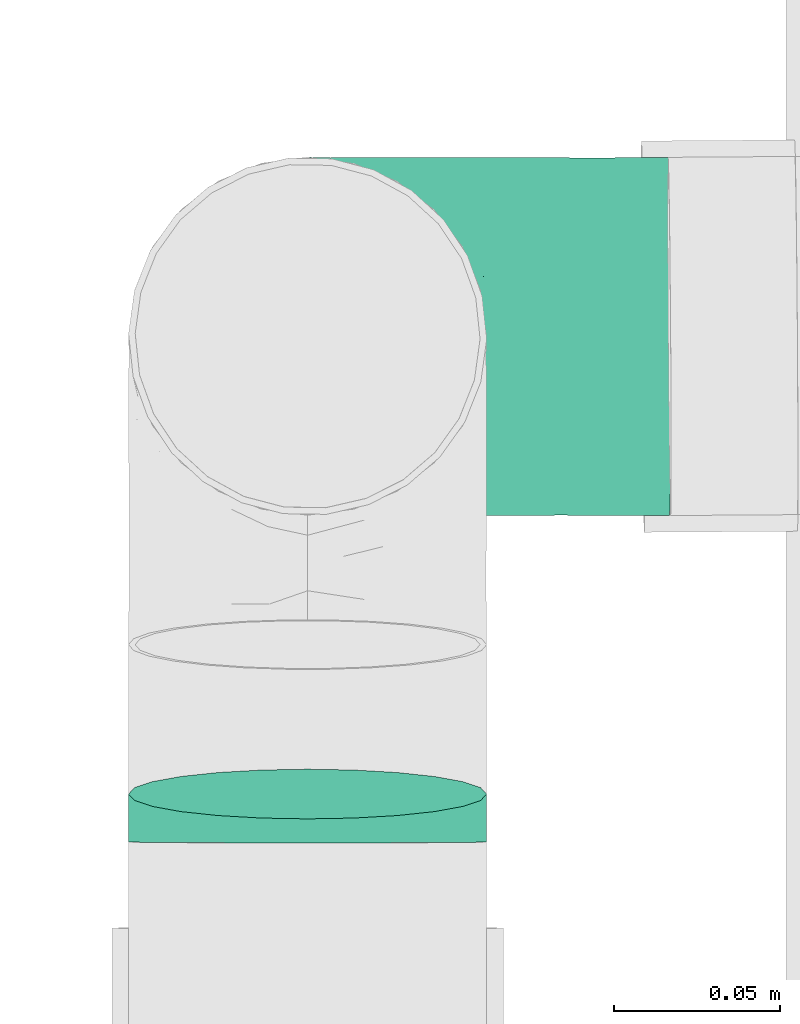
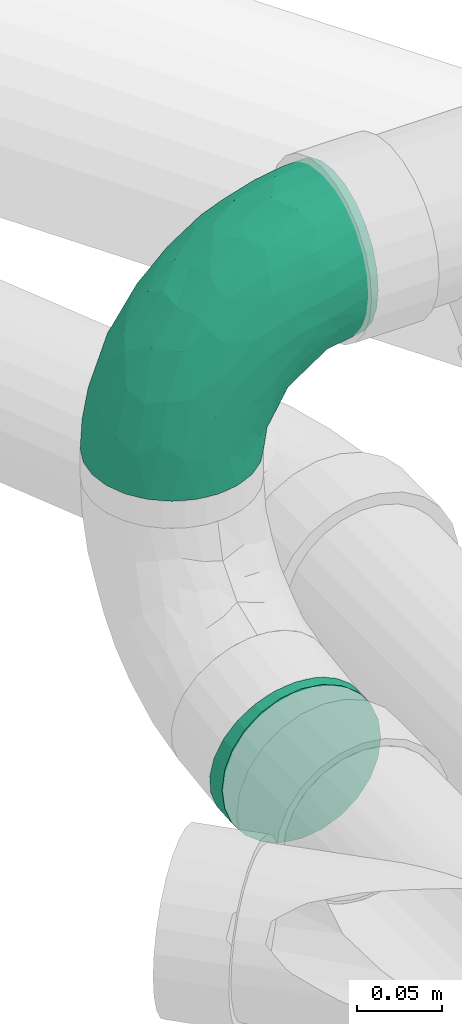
# One storey, part 70 of 78: 2 flow fittings.
"""IFC2X3 building model written with IfcOpenShell, lengths in millimetres."""

import ifcopenshell
import ifcopenshell.guid

model = None  # the IFC model being written
_history = None  # IfcOwnerHistory: only IFC2X3 demands one
_inside = {}  # id of a spatial element -> (the spatial element, [elements in it])
_under = {}  # id of a project, library or spatial element -> (it, [spatial elements below it])
_declared = {}  # id of a project -> (the project, [libraries it declares])
_typed = {}  # id of a type object -> (the type object, [elements of that type])
_made_of = {}  # id of a material, layer set ... -> (it, [elements and type objects made of it])


def new_model(schema):
    """Start an empty IFC model of exactly this schema.

    Asked for "IFC4X3", IfcOpenShell would pick the latest addendum, in which some entities
    have other attributes; the version numbers below select the first issue.
    IFC2X3 requires an IfcOwnerHistory on every rooted entity: one is made here for all.
    """
    global model, _history
    if schema == "IFC4X3":
        model = ifcopenshell.file(schema_version=(4, 3, 0, 0))
    else:
        model = ifcopenshell.file(schema=schema)
    _inside.clear()
    _under.clear()
    _declared.clear()
    _typed.clear()
    _made_of.clear()
    _history = None
    if model.schema == "IFC2X3":
        org = make("IfcOrganization", Name="unknown")
        user = make(
            "IfcPersonAndOrganization",
            ThePerson=make("IfcPerson", FamilyName="unknown"),
            TheOrganization=org,
        )
        app = make(
            "IfcApplication",
            ApplicationDeveloper=org,
            Version="unknown",
            ApplicationFullName="unknown",
            ApplicationIdentifier="unknown",
        )
        _history = make(
            "IfcOwnerHistory",
            OwningUser=user,
            OwningApplication=app,
            ChangeAction="ADDED",
            CreationDate=0,
        )
    return model


def make(cls, **values):
    """One entity of the class cls with the attributes given. An attribute that is None is left unset."""
    return model.create_entity(
        cls, **{name: value for name, value in values.items() if value is not None}
    )


def entity(cls, *values):
    """Any entity or typed value of the class cls, its attributes in the order of the schema. None: left unset."""
    e = model.create_entity(cls)
    for i, value in enumerate(values):
        if value is not None:
            e[i] = value
    return e


def rooted(cls, **values):
    """An entity with a GlobalId (a new one), such as an element, a storey or a relation."""
    return make(cls, GlobalId=ifcopenshell.guid.new(), OwnerHistory=_history, **values)


def si_unit(unit_type, name, prefix=None):
    """IfcSIUnit, for example si_unit("LENGTHUNIT", "METRE", prefix="MILLI")."""
    return make("IfcSIUnit", UnitType=unit_type, Prefix=prefix, Name=name)


def converted_unit(unit_type, name, factor, base, dimensions=None, offset=None):
    """IfcConversionBasedUnit, such as the inch: factor (a typed value) times the base unit."""
    return make(
        "IfcConversionBasedUnit"
        if offset is None
        else "IfcConversionBasedUnitWithOffset",
        ConversionOffset=offset,
        Dimensions=None
        if dimensions is None
        else entity("IfcDimensionalExponents", *dimensions),
        UnitType=unit_type,
        Name=name,
        ConversionFactor=make(
            "IfcMeasureWithUnit", ValueComponent=factor, UnitComponent=base
        ),
    )


def derived_unit(unit_type, elements):
    """IfcDerivedUnit: a product of units, each with its exponent."""
    return make(
        "IfcDerivedUnit",
        Elements=[
            make("IfcDerivedUnitElement", Unit=unit, Exponent=power)
            for unit, power in elements
        ],
        UnitType=unit_type,
    )


def assignment(units):
    """IfcUnitAssignment: the units of a project."""
    return None if units is None else make("IfcUnitAssignment", Units=units)


def point(xyz):
    """IfcCartesianPoint."""
    return None if xyz is None else make("IfcCartesianPoint", Coordinates=xyz)


def direction(xyz):
    """IfcDirection."""
    return None if xyz is None else make("IfcDirection", DirectionRatios=xyz)


def frame(location, z_axis=None, x_axis=None):
    """IfcAxis2Placement3D, a coordinate frame: its origin and axes. An axis left out is left unset."""
    return make(
        "IfcAxis2Placement3D",
        Location=point(location),
        Axis=direction(z_axis),
        RefDirection=direction(x_axis),
    )


def origin_with_axes():
    """The frame at (0, 0, 0) with the z axis (0, 0, 1) and the x axis (1, 0, 0) written out."""
    return frame((0.0, 0.0, 0.0), z_axis=(0.0, 0.0, 1.0), x_axis=(1.0, 0.0, 0.0))


def place(relative_to, where):
    """IfcLocalPlacement: puts the frame where relative to a parent placement (None: the world)."""
    return make(
        "IfcLocalPlacement", PlacementRelTo=relative_to, RelativePlacement=where
    )


def context(
    kind, dimensions, precision=None, world=None, true_north=None, identifier=None
):
    """IfcGeometricRepresentationContext, for example the 3D "Model" context."""
    return make(
        "IfcGeometricRepresentationContext",
        ContextIdentifier=identifier,
        ContextType=kind,
        CoordinateSpaceDimension=dimensions,
        Precision=precision,
        WorldCoordinateSystem=world,
        TrueNorth=true_north,
    )


def subcontext(parent, identifier, kind, view, scale=None):
    """IfcGeometricRepresentationSubContext, for example "Body" below "Model"."""
    return make(
        "IfcGeometricRepresentationSubContext",
        ContextIdentifier=identifier,
        ContextType=kind,
        ParentContext=parent,
        TargetScale=scale,
        TargetView=view,
    )


def project(units=None, contexts=None):
    """IfcProject with its units and contexts."""
    return rooted(
        "IfcProject",
        Name="project",
        RepresentationContexts=contexts,
        UnitsInContext=assignment(units),
    )


def spatial(cls, under=None, at=None, **own):
    """A site, building, storey or space (cls), placed at a placement, below another one or the project."""
    s = rooted(cls, ObjectPlacement=at, **own)
    if under is not None:
        _under.setdefault(under.id(), (under, []))[1].append(s)
    return s


def faces_of(points, faces, orient=None, outer=None):
    """IfcFace entities. A face is a list of loops; a loop is a list of indices into points, from 0.

    orient and outer hold one flag for each loop. By default every Orientation is true, the
    first loop of a face is its IfcFaceOuterBound and the others are IfcFaceBound.
    """
    made = []
    for i, loops in enumerate(faces):
        bounds = []
        for j, loop in enumerate(loops):
            is_outer = j == 0 if outer is None else outer[i][j]
            bounds.append(
                make(
                    "IfcFaceOuterBound" if is_outer else "IfcFaceBound",
                    Bound=make("IfcPolyLoop", Polygon=[points[k] for k in loop]),
                    Orientation=True if orient is None else orient[i][j],
                )
            )
        made.append(make("IfcFace", Bounds=bounds))
    return made


def open_shell(faces, orient=None, outer=None):
    """The faces of one IfcOpenShell. surface_model builds it on its shared points."""
    return ("IfcOpenShell", faces, orient, outer)


def surface_model(cls, points, shells):
    """IfcFaceBasedSurfaceModel or IfcShellBasedSurfaceModel (cls): surfaces that need not close."""
    shared = [point(p) for p in points]
    made = [make(c, CfsFaces=faces_of(shared, fs, o, b)) for c, fs, o, b in shells]
    if cls == "IfcFaceBasedSurfaceModel":
        return make(cls, FbsmFaces=made)
    return make(cls, SbsmBoundary=made)


def shape(context_of_items, identifier, shape_type, items):
    """IfcShapeRepresentation: the items that make up one representation, for example the "Body"."""
    return make(
        "IfcShapeRepresentation",
        ContextOfItems=context_of_items,
        RepresentationIdentifier=identifier,
        RepresentationType=shape_type,
        Items=items,
    )


def source(mapping_origin, context_of_items, identifier, shape_type, items):
    """IfcRepresentationMap: a shape defined once, which mapped items show again and again."""
    return make(
        "IfcRepresentationMap",
        MappingOrigin=mapping_origin,
        MappedRepresentation=shape(context_of_items, identifier, shape_type, items),
    )


def transform(
    local_origin,
    x_axis=None,
    y_axis=None,
    z_axis=None,
    scale=None,
    scale2=None,
    scale3=None,
    uniform=True,
):
    """IfcCartesianTransformationOperator3D, or its non-uniform kind. x_axis, y_axis, z_axis: its Axis1, 2, 3."""
    if uniform:
        return make(
            "IfcCartesianTransformationOperator3D",
            Axis1=direction(x_axis),
            Axis2=direction(y_axis),
            LocalOrigin=point(local_origin),
            Scale=scale,
            Axis3=direction(z_axis),
        )
    return make(
        "IfcCartesianTransformationOperator3DnonUniform",
        Axis1=direction(x_axis),
        Axis2=direction(y_axis),
        LocalOrigin=point(local_origin),
        Scale=scale,
        Axis3=direction(z_axis),
        Scale2=scale2,
        Scale3=scale3,
    )


def mapped(mapping_source, mapping_target):
    """IfcMappedItem: shows the shape of a source again, moved by a transform."""
    return make(
        "IfcMappedItem", MappingSource=mapping_source, MappingTarget=mapping_target
    )


def made_of(thing, what):
    """Note that an element or type object is made of a material, layer set ...; save() writes the relation."""
    if what is not None:
        _made_of.setdefault(what.id(), (what, []))[1].append(thing)
    return thing


def type_object(cls, material=None, **own):
    """A type object (cls), such as IfcWallType, which elements share."""
    return made_of(rooted(cls, **own), material)


def element(
    cls,
    number,
    at=None,
    inside=None,
    cuts=None,
    type_object=None,
    material=None,
    context=None,
    identifier="Body",
    shape_type=None,
    held_by="IfcProductDefinitionShape",
    body=None,
    shapes=None,
    **own,
):
    """One element of the class cls, such as IfcWall. Its Tag is "e" and its number.

    at: its placement. inside: the storey or other place that contains it. cuts: it is an
    opening in that element (IfcRelVoidsElement). A single representation is given by context,
    identifier, shape_type and body (its items); several are given by shapes. held_by: the class
    of the entity that holds the representations. save() writes the other relations.
    """
    e = rooted(cls, Tag="e%d" % number, ObjectPlacement=at, **own)
    if body is not None:
        shapes = [shape(context, identifier, shape_type, body)]
    if shapes is not None:
        e.Representation = make(held_by, Representations=shapes)
    if inside is not None:
        _inside.setdefault(inside.id(), (inside, []))[1].append(e)
    if cuts is not None:
        rooted(
            "IfcRelVoidsElement", RelatingBuildingElement=cuts, RelatedOpeningElement=e
        )
    if type_object is not None:
        _typed.setdefault(type_object.id(), (type_object, []))[1].append(e)
    return made_of(e, material)


def aggregate(whole, parts):
    """IfcRelAggregates: a whole, such as a stair, and the parts it consists of."""
    return rooted("IfcRelAggregates", RelatingObject=whole, RelatedObjects=parts)


def save(model, path):
    """Write the relations noted so far, then the file.

    IfcRelAggregates (storeys below a building ...), IfcRelContainedInSpatialStructure (elements
    in a storey), IfcRelDefinesByType, IfcRelAssociatesMaterial and IfcRelDeclares: one each for
    every whole, place, type object, material and project.
    """
    for whole, parts in _under.values():
        aggregate(whole, parts)
    for where, things in _inside.values():
        rooted(
            "IfcRelContainedInSpatialStructure",
            RelatedElements=things,
            RelatingStructure=where,
        )
    for kind, things in _typed.values():
        rooted("IfcRelDefinesByType", RelatedObjects=things, RelatingType=kind)
    for what, things in _made_of.values():
        rooted("IfcRelAssociatesMaterial", RelatedObjects=things, RelatingMaterial=what)
    for by, libraries in _declared.values():
        rooted("IfcRelDeclares", RelatingContext=by, RelatedDefinitions=libraries)
    model.write(path)


model = new_model("IFC2X3")

# Units and contexts
model_context = context("Model", 3, precision=0.01, world=frame((0.0, 4.29681676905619e-09, 0.0)), true_north=direction((4.01073788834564e-13, 1.0)))
plan_context = context("Plan", 3, precision=0.01, world=frame((0.0, 4.29681676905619e-09, 0.0)), true_north=direction((4.01073788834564e-13, 1.0)))
body_context = subcontext(model_context, "Body", "Model", "MODEL_VIEW")
ifc_project = project(units=[converted_unit("PLANEANGLEUNIT", "DEGREE", entity("IfcPositiveLengthMeasure", 0.0174532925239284), si_unit("PLANEANGLEUNIT", "RADIAN"), dimensions=[0, 0, 0, 0, 0, 0, 0]), si_unit("AREAUNIT", "SQUARE_METRE"), si_unit("LENGTHUNIT", "METRE", prefix="MILLI"), si_unit("MASSUNIT", "GRAM", prefix="KILO"), si_unit("POWERUNIT", "WATT"), si_unit("PRESSUREUNIT", "PASCAL"), si_unit("FORCEUNIT", "NEWTON", prefix="KILO"), si_unit("ELECTRICVOLTAGEUNIT", "VOLT"), si_unit("ELECTRICCURRENTUNIT", "AMPERE"), si_unit("THERMODYNAMICTEMPERATUREUNIT", "DEGREE_CELSIUS"), si_unit("TIMEUNIT", "SECOND"), si_unit("VOLUMEUNIT", "CUBIC_METRE"), derived_unit("LINEARVELOCITYUNIT", [(si_unit("LENGTHUNIT", "METRE"), 1), (si_unit("TIMEUNIT", "SECOND"), -1)]), derived_unit("VOLUMETRICFLOWRATEUNIT", [(si_unit("VOLUMEUNIT", "CUBIC_METRE"), 1), (si_unit("TIMEUNIT", "SECOND"), -1)]), derived_unit("THERMALTRANSMITTANCEUNIT", [(si_unit("POWERUNIT", "WATT"), 1), (si_unit("THERMODYNAMICTEMPERATUREUNIT", "KELVIN"), -1), (si_unit("AREAUNIT", "SQUARE_METRE"), -1)]), derived_unit("SOUNDPRESSUREUNIT", [(si_unit("PRESSUREUNIT", "PASCAL"), 1)])], contexts=[model_context, plan_context])

# Site, building, storey
site_placement = place(None, frame((0.0, -4.29681676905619e-09, 0.0), z_axis=(0.0, 0.0, 1.0), x_axis=(1.0, 0.0, 0.0)))
site = spatial("IfcSite", under=ifc_project, at=site_placement, Name="ENGM", CompositionType="ELEMENT")
building_placement = place(site_placement, frame((0.0, 4.29681676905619e-09, 0.0), z_axis=(0.0, 0.0, 1.0), x_axis=(1.0, 0.0, 0.0)))
building = spatial("IfcBuilding", under=site, at=building_placement, Name="TH", CompositionType="ELEMENT")
storey_placement = place(building_placement, frame((0.0, 0.0, 205200.0), z_axis=(0.0, 0.0, 1.0), x_axis=(1.0, 0.0, 0.0)))
storey = spatial("IfcBuildingStorey", under=building, at=storey_placement, Name="Nivå D + 1,2 m", CompositionType="ELEMENT", Elevation=205200.0)

# Flow fittings
pipe_fitting_type = type_object("IfcPipeFittingType", Name="magi_pipe_fe_elbow_short_001", PredefinedType="BEND")
shared_shape_1 = source(origin_with_axes(), body_context, "Body", "SurfaceModel", [
    surface_model("IfcShellBasedSurfaceModel", [(-109.08591, 0.0, -54.0), (-109.08591, -13.97623, -52.15999), (-109.08591, 13.97623, -52.15999), (-109.08591, 27.0, -46.76537), (-109.08591, 52.15999, -13.97623), (-109.08591, 46.76537, -27.0), (-109.08591, 38.18377, -38.18377), (-109.08591, -54.0, 0.0), (-109.08591, -27.0, -46.76537), (-109.08591, -38.18377, -38.18377), (-109.08591, -46.76537, -27.0), (-109.08591, -52.15999, -13.97623), (-109.08591, 38.18377, 38.18377), (-109.08591, 46.76537, 27.0), (-109.08591, 52.15999, 13.97623), (-109.08591, 13.97623, 52.15999), (-109.08591, 27.0, 46.76537), (-109.08591, -46.76537, 27.0), (-109.08591, -38.18377, 38.18377), (-109.08591, -27.0, 46.76537), (-109.08591, -52.15999, 13.97623), (-109.08591, -13.97623, 52.15999), (-109.08591, 0.0, 54.0), (-109.08591, 54.0, 0.0), (-15.06684, 108.94063, -52.15999), (12.88422, 109.22027, -52.15999), (-1.09131, 109.08045, -54.0), (-39.27317, 108.69845, -38.18377), (-28.08996, 108.81034, -46.76537), (-47.85435, 108.6126, -27.0), (-53.2487, 108.55864, -13.97623), (45.67172, 109.5483, 27.0), (52.90598, 109.62068, 0.0), (37.09054, 109.46245, -38.18377), (25.90733, 109.35057, -46.76537), (51.06607, 109.60227, -13.97623), (45.67172, 109.5483, -27.0), (-53.2487, 108.55864, 13.97623), (-39.27317, 108.69845, 38.18377), (-47.85435, 108.6126, 27.0), (-28.08996, 108.81034, 46.76537), (-15.06684, 108.94063, 52.15999), (25.90733, 109.35057, 46.76537), (37.09054, 109.46245, 38.18377), (51.06607, 109.60227, 13.97623), (12.88422, 109.22027, 52.15999), (-1.09131, 109.08045, 54.0), (-55.08861, 108.54022, 0.0), (-80.46532, -41.98217, 30.31393), (-75.04344, -47.55258, 17.06073), (-66.89637, -48.40985, 0.0), (-82.3972, -50.46373, 0.0), (22.83858, 18.42029, 16.3558), (33.69434, 48.51541, 27.15448), (11.37909, 16.02022, 31.90688), (24.04164, 44.68941, 36.91151), (30.40161, 72.02078, 40.20173), (12.53728, 42.73486, 44.88114), (-54.51713, -0.40125, 52.32087), (-80.37777, -20.42678, 48.57173), (-42.60729, -12.96417, 44.88114), (-71.71303, -31.1206, 40.20173), (6.03696, -5.97686, 0.0), (5.46312, -3.32535, 15.48022), (-10.79077, -19.00104, 0.0), (-56.15572, 93.78505, 9.29363), (-63.65354, 76.43241, 11.87914), (-51.83159, 94.09655, 22.51631), (-94.33026, 32.70749, 44.02114), (-85.40569, 45.02851, 35.4629), (-75.20546, 61.52078, 19.16936), (-66.78552, 63.76389, 26.95011), (-19.31944, 53.59519, 53.91471), (-40.66297, 40.25818, 52.71376), (-32.66135, 23.85057, 53.70105), (-83.3953, -7.1505, 53.06947), (-21.09474, 93.87517, 50.59108), (-8.21268, 81.69502, 53.8694), (-76.56596, 8.2816, 53.9102), (-79.41283, 53.7253, 28.04966), (-91.39931, 53.24579, 19.22961), (-4.59467, 3.75972, 36.7177), (-10.15263, 10.05156, 44.06164), (-19.30832, -12.75026, 33.35361), (-94.84303, 55.11944, 9.05772), (-77.63065, 63.17529, 9.02947), (-15.81035, -21.21601, 16.66337), (-15.58938, -16.49715, 25.32041), (-48.1759, -34.17801, 27.15448), (-70.71162, 70.00771, 0.0), (-88.29629, 58.16235, 0.0), (-84.28646, 21.16783, 51.0182), (-14.66637, 36.88655, 53.02716), (-27.57242, 9.95681, 50.35522), (-6.25629, 29.61877, 49.62323), (38.25975, 44.67517, 13.13968), (47.73819, 67.37732, 0.0), (46.79945, 75.51541, 17.06073), (41.17508, 80.88128, 30.31393), (-27.6185, -32.02522, 0.0), (-40.44225, -36.86275, 13.42975), (-47.25744, -40.21754, 0.0), (6.31584, 83.46267, 53.06947), (-58.06399, 36.89093, 49.96565), (-60.16878, 23.25843, 53.03692), (-53.69334, 13.28175, 53.9724), (49.63688, 82.89792, 0.0), (-44.85805, 69.74422, 42.5553), (-45.27401, 87.45139, 35.18781), (-57.57931, 60.70719, 38.29247), (-24.13936, 73.75959, 51.4455), (-59.04277, 87.71001, 0.0), (-34.96979, 84.29468, 44.77558), (-41.68596, 58.74145, 48.11281), (19.62164, 80.57809, 48.57173), (-44.44666, -24.48752, 36.91151), (-58.51207, 48.66667, 44.87484), (-75.13789, 36.73742, 45.51108), (-32.20778, 56.47937, 51.74119), (-0.14417, 54.51842, 52.32087), (31.74731, 27.93751, 0.0), (-1.33237, -2.72858, 27.44687), (-56.67991, 76.66386, 26.69553), (18.89214, 10.98032, 0.0), (39.74275, 47.65742, 0.0), (-79.2617, 35.44935, -45.1918), (-44.69452, -13.29576, -45.34185), (-47.64908, -0.50693, -51.35521), (-21.9507, -0.55406, -44.07477), (-86.40799, 6.8288, -53.82706), (-52.73016, -40.54217, -18.10804), (-79.82224, -48.34222, -17.58247), (-68.82648, -40.03665, -29.21682), (-84.11195, 21.19559, -51.02562), (-93.66447, 55.34919, -9.61457), (-34.74182, 85.48466, -44.68356), (-22.84152, 79.31004, -51.21805), (-76.68385, 62.64659, -13.59328), (17.94137, 69.54395, -48.00922), (20.37264, 92.43433, -49.13903), (31.47661, 79.48464, -40.75556), (-86.40715, 44.76302, -35.35225), (-65.94229, 49.69056, -40.72164), (9.62963, -0.42021, -11.44075), (-91.93911, -42.99017, -31.36016), (-50.8167, 63.03161, -41.62778), (-50.63615, 50.13208, -47.46514), (-28.3383, -27.832, -20.34552), (-4.11868, -8.25214, -23.47783), (-8.34161, -17.43499, -10.92631), (-79.16576, -32.27021, -40.75556), (-16.48874, -9.98872, -33.95938), (4.23285, 9.75872, -33.97209), (1.85833, 26.14949, -44.98649), (21.55235, 41.3962, -37.72505), (6.01484, 80.66613, -53.00823), (47.54124, 80.30186, -17.58247), (-92.22589, -21.29635, -49.13903), (-41.17851, -21.96541, -37.72505), (-30.76611, -23.51598, -29.74372), (-50.88757, -31.87187, -32.00087), (-59.88588, -24.48922, -42.48696), (-69.36098, -18.6362, -48.00922), (-80.60193, -6.82153, -53.00823), (-39.11756, 66.49085, -46.96834), (28.70822, 37.43617, -26.92065), (39.34609, 69.22357, -29.21682), (37.44602, 44.63381, -15.76956), (-58.91784, 81.99433, -16.26505), (-66.62087, 64.25174, -26.53417), (0.03022, 47.65176, -51.35521), (10.62375, 47.06885, -47.14906), (-19.61079, 19.41557, -50.94388), (-47.58733, 79.40267, -36.07996), (-51.63913, 88.25427, -26.13466), (-7.6929, 86.33535, -53.82706), (42.06825, 92.36458, -31.36016), (-13.43799, 60.15174, -53.98976), (-29.80801, 31.92214, -53.96739), (-32.5387, 51.82964, -52.3982), (17.97425, 13.99901, -20.26786), (-53.65083, 31.51998, -52.27431), (-88.15419, 52.49808, -23.36754), (-34.5201, -34.58813, -10.80402), (26.08103, 20.52351, -10.32439), (-60.28317, 12.83555, -53.98976), (-60.98613, 61.44839, -35.06962)], [open_shell([[[0, 1, 2]], [[2, 1, 3]], [[4, 5, 6]], [[6, 3, 7]], [[6, 7, 4]], [[8, 9, 1]], [[9, 3, 1]], [[10, 11, 9]], [[7, 9, 11]], [[9, 7, 3]], [[7, 12, 4]], [[4, 13, 14]], [[4, 12, 13]], [[15, 16, 12]], [[12, 7, 15]], [[17, 15, 7]], [[18, 19, 17]], [[17, 7, 20]], [[19, 21, 17]], [[21, 15, 17]], [[15, 21, 22]], [[23, 4, 14]], [[24, 25, 26]], [[27, 24, 28]], [[27, 29, 30]], [[24, 27, 25]], [[27, 31, 32]], [[25, 33, 34]], [[33, 25, 32]], [[33, 35, 36]], [[35, 33, 32]], [[25, 27, 32]], [[27, 30, 31]], [[37, 38, 30]], [[38, 37, 39]], [[38, 40, 41]], [[38, 31, 30]], [[41, 31, 38]], [[31, 42, 43]], [[44, 32, 31]], [[41, 45, 42]], [[42, 31, 41]], [[45, 41, 46]], [[37, 30, 47]], [[48, 17, 49]], [[50, 49, 51]], [[52, 53, 54]], [[49, 17, 20]], [[20, 51, 49]], [[55, 56, 57]], [[18, 17, 48]], [[58, 59, 60]], [[56, 43, 42]], [[61, 19, 18]], [[61, 59, 19]], [[62, 63, 64]], [[65, 66, 67]], [[12, 68, 69]], [[66, 70, 71]], [[13, 12, 69]], [[72, 73, 74]], [[16, 68, 12]], [[21, 75, 22]], [[41, 76, 77]], [[22, 78, 15]], [[79, 80, 13]], [[81, 82, 83]], [[23, 14, 84]], [[70, 85, 84]], [[86, 87, 88]], [[89, 90, 85]], [[91, 15, 78]], [[15, 91, 16]], [[92, 93, 94]], [[82, 60, 83]], [[70, 84, 80]], [[95, 96, 97]], [[31, 43, 98]], [[53, 97, 98]], [[99, 100, 101]], [[48, 88, 61]], [[45, 46, 102]], [[103, 91, 104]], [[97, 44, 31]], [[37, 67, 39]], [[98, 97, 31]], [[104, 105, 74]], [[97, 106, 44]], [[49, 50, 101]], [[107, 108, 109]], [[110, 72, 77]], [[85, 66, 89]], [[22, 75, 78]], [[111, 65, 47]], [[40, 38, 112]], [[89, 66, 111]], [[79, 71, 70]], [[112, 110, 76]], [[113, 110, 112]], [[39, 67, 108]], [[114, 42, 45]], [[19, 59, 21]], [[56, 114, 57]], [[40, 76, 41]], [[46, 41, 77]], [[115, 60, 61]], [[65, 111, 66]], [[56, 42, 114]], [[53, 52, 95]], [[107, 116, 113]], [[116, 69, 117]], [[80, 79, 70]], [[108, 38, 39]], [[110, 113, 118]], [[110, 118, 72]], [[102, 77, 119]], [[60, 59, 61]], [[75, 59, 58]], [[115, 61, 88]], [[93, 60, 82]], [[102, 114, 45]], [[57, 114, 119]], [[94, 57, 119]], [[82, 81, 57]], [[104, 91, 78]], [[68, 91, 117]], [[88, 48, 49]], [[61, 18, 48]], [[43, 56, 98]], [[53, 98, 56]], [[86, 88, 100]], [[95, 52, 120]], [[81, 121, 54]], [[55, 53, 56]], [[86, 100, 99]], [[63, 52, 121]], [[112, 107, 113]], [[103, 116, 117]], [[104, 74, 73]], [[119, 77, 72]], [[93, 74, 58]], [[72, 74, 92]], [[84, 85, 90]], [[66, 85, 70]], [[23, 84, 90]], [[84, 14, 80]], [[14, 13, 80]], [[79, 13, 69]], [[69, 109, 79]], [[71, 109, 122]], [[109, 108, 122]], [[112, 38, 108]], [[77, 102, 46]], [[114, 102, 119]], [[59, 75, 21]], [[78, 75, 58]], [[52, 54, 121]], [[63, 123, 52]], [[104, 78, 105]], [[103, 104, 73]], [[113, 103, 73]], [[91, 103, 117]], [[113, 116, 103]], [[69, 116, 109]], [[78, 58, 105]], [[58, 74, 105]], [[109, 71, 79]], [[66, 71, 122]], [[95, 124, 96]], [[53, 95, 97]], [[60, 93, 58]], [[94, 93, 82]], [[57, 94, 82]], [[92, 94, 119]], [[72, 92, 119]], [[93, 92, 74]], [[20, 7, 51]], [[106, 97, 96]], [[106, 32, 44]], [[101, 100, 49]], [[49, 100, 88]], [[67, 66, 122]], [[47, 65, 37]], [[91, 68, 16]], [[69, 68, 117]], [[112, 76, 40]], [[77, 76, 110]], [[65, 67, 37]], [[108, 67, 122]], [[88, 83, 115]], [[83, 60, 115]], [[57, 54, 55]], [[54, 53, 55]], [[121, 81, 83]], [[57, 81, 54]], [[83, 87, 121]], [[87, 63, 121]], [[88, 87, 83]], [[63, 87, 86]], [[63, 86, 64]], [[95, 120, 124]], [[86, 99, 64]], [[113, 73, 118]], [[72, 118, 73]], [[108, 107, 112]], [[116, 107, 109]], [[123, 63, 62]], [[123, 120, 52]], [[6, 125, 3]], [[126, 127, 128]], [[0, 2, 129]], [[130, 131, 132]], [[3, 133, 2]], [[133, 3, 125]], [[90, 134, 23]], [[135, 28, 136]], [[90, 137, 134]], [[138, 139, 140]], [[141, 142, 125]], [[123, 62, 143]], [[24, 136, 28]], [[125, 6, 141]], [[131, 10, 144]], [[142, 145, 146]], [[131, 51, 11]], [[147, 148, 149]], [[150, 9, 8]], [[148, 151, 152]], [[152, 153, 154]], [[25, 155, 26]], [[156, 36, 35]], [[9, 144, 10]], [[8, 157, 150]], [[158, 159, 160]], [[150, 161, 160]], [[157, 8, 1]], [[162, 163, 127]], [[145, 164, 146]], [[89, 137, 90]], [[165, 166, 167]], [[168, 169, 137]], [[153, 170, 171]], [[30, 168, 47]], [[153, 172, 170]], [[163, 1, 0]], [[173, 174, 29]], [[169, 168, 174]], [[34, 33, 140]], [[26, 175, 24]], [[24, 175, 136]], [[176, 33, 36]], [[27, 28, 135]], [[29, 27, 173]], [[155, 25, 139]], [[157, 163, 162]], [[177, 178, 179]], [[168, 89, 111]], [[166, 156, 167]], [[51, 131, 50]], [[139, 25, 34]], [[140, 154, 138]], [[152, 165, 180]], [[156, 106, 96]], [[179, 136, 177]], [[181, 133, 125]], [[156, 166, 176]], [[10, 131, 11]], [[177, 155, 170]], [[141, 182, 169]], [[168, 111, 47]], [[145, 135, 164]], [[182, 4, 134]], [[183, 149, 99]], [[6, 5, 141]], [[168, 137, 89]], [[174, 30, 29]], [[176, 140, 33]], [[154, 140, 166]], [[170, 155, 138]], [[175, 155, 177]], [[171, 154, 153]], [[170, 172, 178]], [[156, 35, 106]], [[120, 184, 167]], [[184, 143, 180]], [[165, 167, 180]], [[162, 126, 161]], [[144, 150, 132]], [[129, 163, 0]], [[185, 178, 127]], [[185, 127, 163]], [[127, 172, 128]], [[160, 130, 132]], [[35, 32, 106]], [[182, 5, 4]], [[125, 142, 146]], [[181, 125, 146]], [[129, 133, 185]], [[136, 179, 164]], [[173, 27, 135]], [[154, 165, 152]], [[128, 172, 153]], [[148, 152, 180]], [[152, 151, 128]], [[152, 128, 153]], [[128, 158, 126]], [[169, 182, 137]], [[141, 5, 182]], [[133, 129, 2]], [[163, 129, 185]], [[155, 175, 26]], [[136, 175, 177]], [[177, 170, 178]], [[181, 146, 179]], [[127, 178, 172]], [[181, 178, 185]], [[178, 181, 179]], [[133, 181, 185]], [[169, 186, 141]], [[186, 173, 145]], [[149, 143, 62]], [[151, 159, 158]], [[143, 148, 180]], [[149, 62, 64]], [[147, 183, 130]], [[101, 130, 183]], [[159, 148, 147]], [[128, 151, 158]], [[186, 145, 142]], [[135, 145, 173]], [[136, 164, 135]], [[179, 146, 164]], [[141, 186, 142]], [[173, 186, 169]], [[148, 143, 149]], [[123, 143, 184]], [[123, 184, 120]], [[180, 167, 184]], [[167, 96, 124]], [[149, 183, 147]], [[101, 50, 130]], [[183, 99, 101]], [[50, 131, 130]], [[51, 7, 11]], [[148, 159, 151]], [[147, 130, 160]], [[160, 159, 147]], [[150, 160, 132]], [[182, 134, 137]], [[23, 134, 4]], [[140, 139, 34]], [[155, 139, 138]], [[156, 176, 36]], [[140, 176, 166]], [[163, 157, 1]], [[150, 157, 162]], [[150, 144, 9]], [[131, 144, 132]], [[169, 174, 173]], [[30, 174, 168]], [[96, 167, 156]], [[124, 120, 167]], [[166, 165, 154]], [[170, 138, 171]], [[154, 171, 138]], [[161, 126, 158]], [[127, 126, 162]], [[160, 161, 158]], [[162, 161, 150]], [[99, 149, 64]]])]),
])
flow_fitting_1_placement = place(storey_placement, frame((903466.63057, 479929.02118, 4443.0876), z_axis=(-5.99999905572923e-06, -0.999999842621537, -0.000560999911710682), x_axis=(-0.999950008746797, 3.90260880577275e-07, 0.00999900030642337)))
element("IfcFlowFitting", 1, at=flow_fitting_1_placement, inside=storey, type_object=pipe_fitting_type, Name="magi_pipe_fe_elbow_short_001", context=body_context, shape_type="MappedRepresentation", body=[
    mapped(shared_shape_1, transform((0.0, 0.0, 0.0), scale=1.0)),
])
shared_shape_2 = source(origin_with_axes(), body_context, "Body", "SurfaceModel", [
    surface_model("IfcShellBasedSurfaceModel", [(-7.25921, 0.0, -54.0), (-7.25921, -13.97623, -52.15999), (-7.25921, 13.97623, -52.15999), (-7.25921, 27.0, -46.76537), (-7.25921, 52.15999, -13.97623), (-7.25921, 46.76537, -27.0), (-7.25921, 38.18377, -38.18377), (-7.25921, -54.0, 0.0), (-7.25921, -27.0, -46.76537), (-7.25921, -38.18377, -38.18377), (-7.25921, -46.76537, -27.0), (-7.25921, -52.15999, -13.97623), (-7.25921, 38.18377, 38.18377), (-7.25921, 46.76537, 27.0), (-7.25921, 52.15999, 13.97623), (-7.25921, 13.97623, 52.15999), (-7.25921, 27.0, 46.76537), (-7.25921, -46.76537, 27.0), (-7.25921, -38.18377, 38.18377), (-7.25921, -27.0, 46.76537), (-7.25921, -52.15999, 13.97623), (-7.25921, -13.97623, 52.15999), (-7.25921, 0.0, 54.0), (-7.25921, 54.0, 0.0), (5.32354, 14.82198, -52.15999), (9.06429, -12.87904, -52.15999), (7.19392, 0.97147, -54.0), (2.08396, 38.81177, -38.18377), (3.58063, 27.7286, -46.76537), (13.45231, -45.37325, 27.0), (14.42048, -52.5428, 0.0), (0.93553, 47.31618, -27.0), (2.08396, 38.81177, 38.18377), (12.30387, -36.86883, -38.18377), (10.8072, -25.78567, -46.76537), (13.45231, -45.37325, -27.0), (14.17424, -50.71935, -13.97623), (0.21359, 52.66228, -13.97623), (-0.03265, 54.48573, 0.0), (0.21359, 52.66228, 13.97623), (0.93553, 47.31618, 27.0), (3.58063, 27.7286, 46.76537), (5.32354, 14.82198, 52.15999), (10.8072, -25.78567, 46.76537), (12.30387, -36.86883, 38.18377), (14.17424, -50.71935, 13.97623), (9.06429, -12.87904, 52.15999), (7.19392, 0.97147, 54.0), (-3.63778, 54.12157, 0.0), (3.60509, -53.63529, 0.0)], [open_shell([[[0, 1, 2]], [[2, 1, 3]], [[4, 5, 6]], [[6, 3, 7]], [[6, 7, 4]], [[8, 9, 1]], [[9, 3, 1]], [[10, 11, 9]], [[7, 9, 11]], [[9, 7, 3]], [[7, 12, 4]], [[4, 13, 14]], [[4, 12, 13]], [[15, 16, 12]], [[12, 7, 15]], [[17, 15, 7]], [[18, 19, 17]], [[17, 7, 20]], [[19, 21, 17]], [[21, 15, 17]], [[15, 21, 22]], [[23, 4, 14]], [[24, 25, 26]], [[27, 24, 28]], [[27, 29, 24]], [[30, 24, 29]], [[31, 32, 27]], [[25, 33, 34]], [[33, 25, 30]], [[35, 30, 36]], [[30, 35, 33]], [[25, 24, 30]], [[31, 37, 38]], [[32, 38, 39]], [[32, 39, 40]], [[32, 41, 42]], [[32, 29, 27]], [[29, 32, 42]], [[29, 43, 44]], [[45, 30, 29]], [[29, 46, 43]], [[46, 29, 47]], [[42, 47, 29]], [[31, 38, 32]], [[44, 19, 18]], [[18, 17, 29]], [[47, 22, 21]], [[22, 47, 15]], [[21, 19, 43]], [[45, 17, 20]], [[13, 12, 40]], [[16, 32, 12]], [[48, 14, 39]], [[48, 23, 14]], [[39, 14, 13]], [[41, 16, 15]], [[20, 7, 49]], [[43, 46, 21]], [[19, 44, 43]], [[46, 47, 21]], [[17, 45, 29]], [[18, 29, 44]], [[45, 49, 30]], [[40, 39, 13]], [[38, 48, 39]], [[41, 15, 42]], [[16, 41, 32]], [[40, 12, 32]], [[42, 15, 47]], [[20, 49, 45]], [[1, 0, 26]], [[0, 2, 26]], [[31, 6, 5]], [[3, 6, 27]], [[3, 28, 2]], [[4, 37, 5]], [[49, 7, 11]], [[36, 49, 11]], [[33, 9, 8]], [[11, 10, 36]], [[9, 35, 10]], [[34, 8, 1]], [[4, 23, 48]], [[48, 38, 37]], [[37, 31, 5]], [[3, 27, 28]], [[2, 28, 24]], [[6, 31, 27]], [[24, 26, 2]], [[34, 1, 25]], [[33, 8, 34]], [[10, 35, 36]], [[36, 30, 49]], [[35, 9, 33]], [[26, 25, 1]], [[4, 48, 37]]])]),
])
flow_fitting_2_placement = place(storey_placement, frame((903466.63217, 479783.86312, 4200.19232), z_axis=(1.0, 0.0, 0.0), x_axis=(0.0, 0.999987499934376, 0.00499999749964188)))
element("IfcFlowFitting", 2, at=flow_fitting_2_placement, inside=storey, type_object=pipe_fitting_type, Name="magi_pipe_fe_elbow_short_001", context=body_context, shape_type="MappedRepresentation", body=[
    mapped(shared_shape_2, transform((0.0, 0.0, 0.0), scale=1.0)),
])

save(model, "model.ifc")
